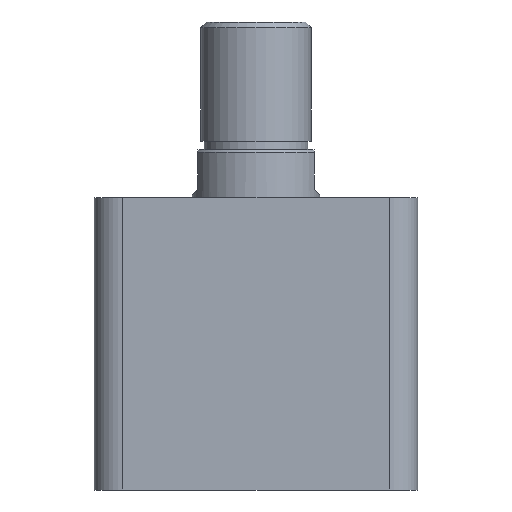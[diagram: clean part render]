
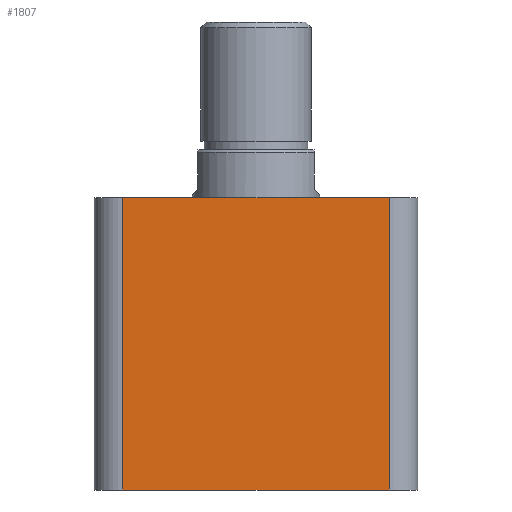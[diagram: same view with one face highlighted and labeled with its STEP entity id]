
A CAD part, front view. The second image highlights one B-rep face of the part: STEP entity #1807.
In plain terms, the highlighted planar face has unit normal (0, -1, 0).
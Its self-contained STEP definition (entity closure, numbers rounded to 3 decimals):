
#35 = CARTESIAN_POINT ( 'NONE',  ( 47., -57., 103. ) ) ;
#53 = CARTESIAN_POINT ( 'NONE',  ( -47., -57., 103. ) ) ;
#117 = VERTEX_POINT ( 'NONE', #35 ) ;
#174 = VERTEX_POINT ( 'NONE', #53 ) ;
#508 = EDGE_CURVE ( 'NONE', #728, #755, #2763, .T. ) ;
#509 = EDGE_CURVE ( 'NONE', #755, #117, #2762, .T. ) ;
#510 = EDGE_CURVE ( 'NONE', #174, #728, #2766, .T. ) ;
#635 = ORIENTED_EDGE ( 'NONE', *, *, #508, .T. ) ;
#641 = ORIENTED_EDGE ( 'NONE', *, *, #510, .T. ) ;
#654 = ORIENTED_EDGE ( 'NONE', *, *, #1502, .F. ) ;
#679 = ORIENTED_EDGE ( 'NONE', *, *, #509, .T. ) ;
#728 = VERTEX_POINT ( 'NONE', #1833 ) ;
#755 = VERTEX_POINT ( 'NONE', #1848 ) ;
#1031 = AXIS2_PLACEMENT_3D ( 'NONE', #2351, #2355, #2356 ) ;
#1502 = EDGE_CURVE ( 'NONE', #174, #117, #2610, .T. ) ;
#1605 = CARTESIAN_POINT ( 'NONE',  ( 47., -57., 103. ) ) ;
#1622 = CARTESIAN_POINT ( 'NONE',  ( -57., -57., 0. ) ) ;
#1623 = DIRECTION ( 'NONE',  ( 1., 0., 0. ) ) ;
#1624 = DIRECTION ( 'NONE',  ( 0., 0., 1. ) ) ;
#1625 = CARTESIAN_POINT ( 'NONE',  ( -47., -57., 103. ) ) ;
#1626 = DIRECTION ( 'NONE',  ( 0., 0., -1. ) ) ;
#1807 = ADVANCED_FACE ( 'NONE', ( #2617 ), #2353, .F. ) ;
#1833 = CARTESIAN_POINT ( 'NONE',  ( -47., -57., 0. ) ) ;
#1848 = CARTESIAN_POINT ( 'NONE',  ( 47., -57., 0. ) ) ;
#2079 = EDGE_LOOP ( 'NONE', ( #635, #679, #654, #641 ) ) ;
#2328 = CARTESIAN_POINT ( 'NONE',  ( -57., -57., 103. ) ) ;
#2329 = DIRECTION ( 'NONE',  ( 1., 0., 0. ) ) ;
#2351 = CARTESIAN_POINT ( 'NONE',  ( -57., -57., 103. ) ) ;
#2353 = PLANE ( 'NONE',  #1031 ) ;
#2355 = DIRECTION ( 'NONE',  ( 0., 1., 0. ) ) ;
#2356 = DIRECTION ( 'NONE',  ( 0., 0., 1. ) ) ;
#2610 = LINE ( 'NONE', #2328, #2612 ) ;
#2612 = VECTOR ( 'NONE', #2329, 1000. ) ;
#2617 = FACE_OUTER_BOUND ( 'NONE', #2079, .T. ) ;
#2759 = VECTOR ( 'NONE', #1626, 1000. ) ;
#2761 = VECTOR ( 'NONE', #1624, 1000. ) ;
#2762 = LINE ( 'NONE', #1605, #2761 ) ;
#2763 = LINE ( 'NONE', #1622, #2770 ) ;
#2766 = LINE ( 'NONE', #1625, #2759 ) ;
#2770 = VECTOR ( 'NONE', #1623, 1000. ) ;
